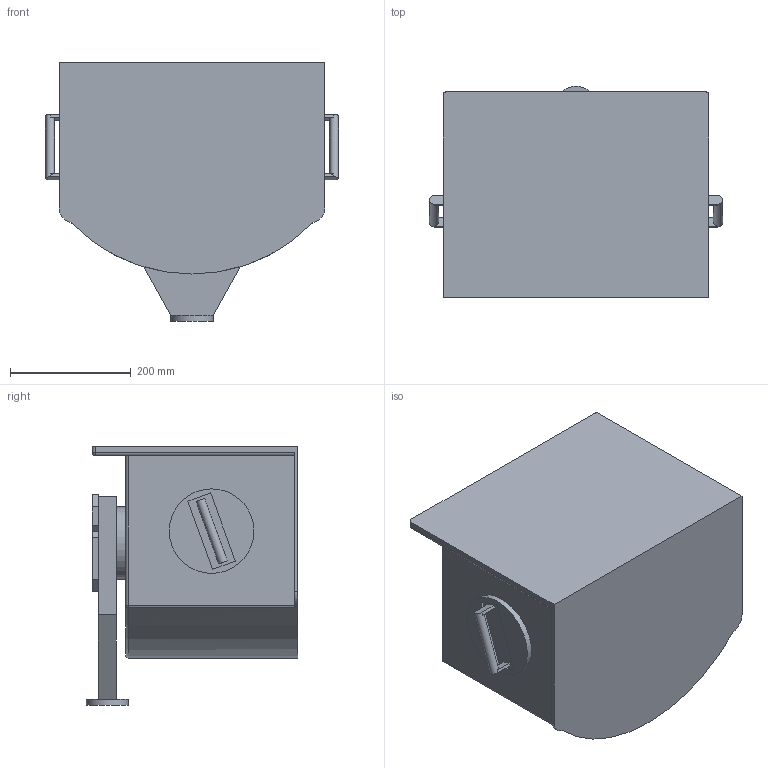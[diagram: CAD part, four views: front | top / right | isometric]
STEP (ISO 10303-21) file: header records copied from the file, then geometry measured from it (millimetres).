
FILE_DESCRIPTION (( 'STEP AP214' ), '1' );
FILE_NAME ('GyroToolWithFoup.STEP', '2025-06-16T10:25:30', ( '' ), ( '' ), 'SwSTEP 2.0', 'SolidWorks 2020', '' );
FILE_SCHEMA (( 'AUTOMOTIVE_DESIGN' ));
Length unit declared in the file: millimetre
Products named in the file (3): Tool; GyroToolWithFoup; foup
Assembly tree (2 placements, depth 2):
  GyroToolWithFoup
    Tool
    foup
Bounding box: 485 x 350 x 428.5 mm (x, y, z)
Volume: 39839406.1 mm3; surface area: 949412 mm2
Topology: 2 solids, 2 shells, 144 faces, 364 edges, 233 vertices
Faces by surface type: plane 120, cylinder 19, sphere 4, torus 1
Full cylindrical faces by diameter (mm): 15 x2, 50 x1, 70 x1, 120 x1, 140 x2
Entity records: 4293 total; most frequent: CARTESIAN_POINT 731, ORIENTED_EDGE 702, DIRECTION 701, EDGE_CURVE 351, LINE 299, VECTOR 299, VERTEX_POINT 231, AXIS2_PLACEMENT_3D 201
